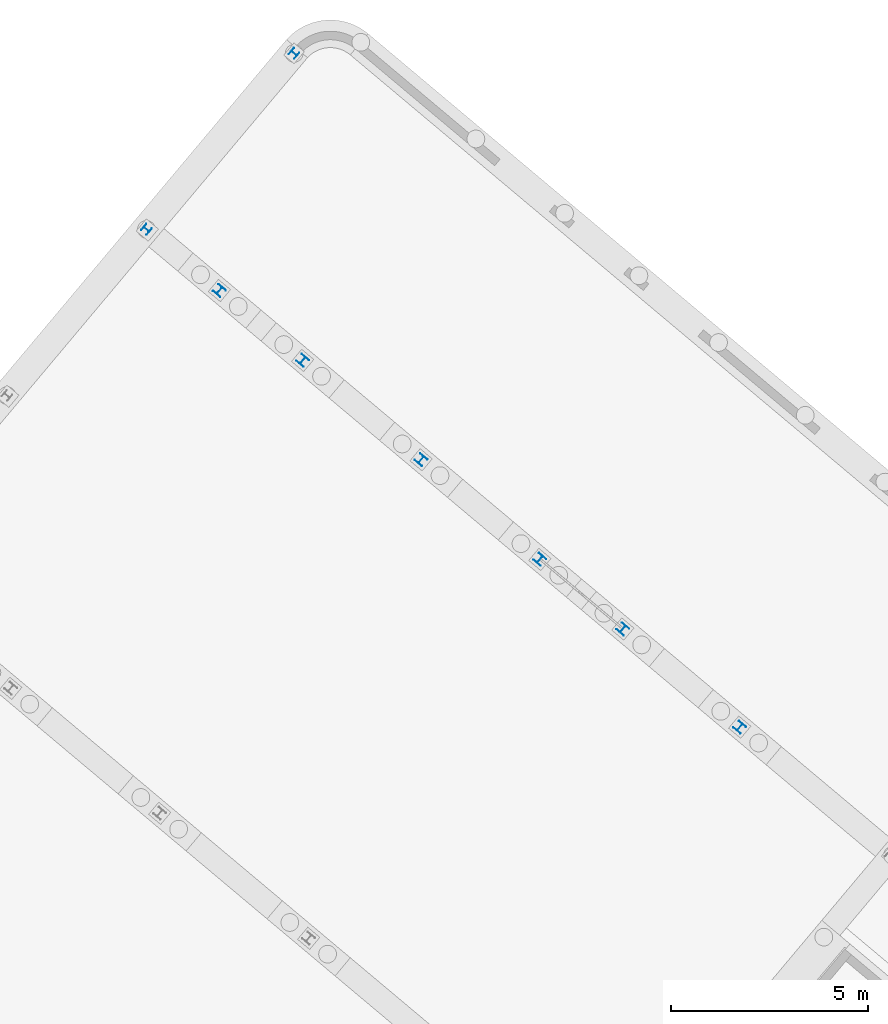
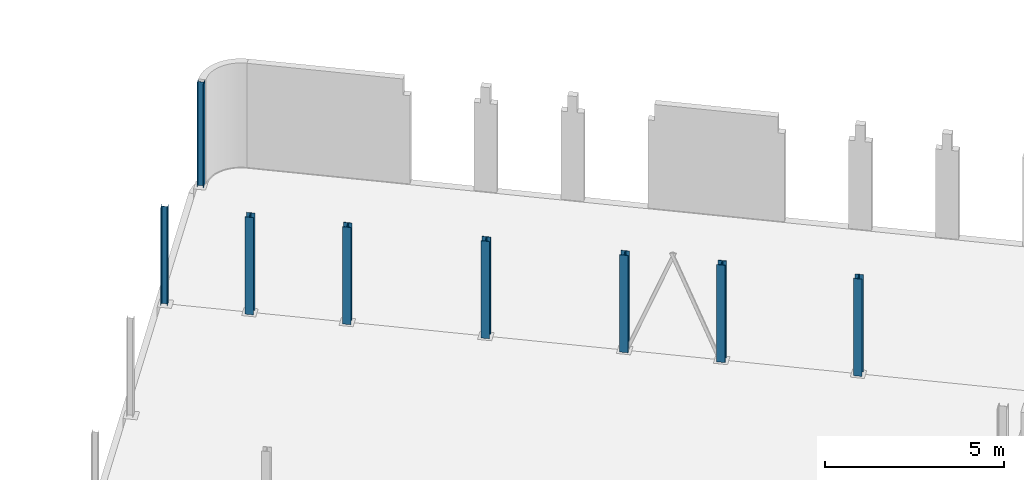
# One storey, part 10 of 26: 8 columns.
"""IFC2X3 building model written with IfcOpenShell, lengths in millimetres."""

from ifc_helpers import new_model, entity, si_unit, converted_unit, derived_unit, direction, frame, frame_2d, origin, origin_2d_with_axis, place, context, subcontext, project, spatial, i_section, extrude, source, transform, mapped, material, type_object, type_shapes, element, save


model = new_model("IFC2X3")

# Units and contexts
model_context = context("Model", 3, precision=0.01, world=origin(), true_north=direction((6.123031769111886e-17, 1.0)))
body_context = subcontext(model_context, "Body", "Model", "MODEL_VIEW")
ifc_project = project(units=[si_unit("LENGTHUNIT", "METRE", prefix="MILLI"), si_unit("AREAUNIT", "SQUARE_METRE"), si_unit("VOLUMEUNIT", "CUBIC_METRE"), derived_unit("MASSDENSITYUNIT", [(si_unit("MASSUNIT", "GRAM", prefix="KILO"), 1), (si_unit("LENGTHUNIT", "METRE"), -3)]), si_unit("MASSUNIT", "GRAM", prefix="KILO"), converted_unit("PLANEANGLEUNIT", "DEGREE", entity("IfcPlaneAngleMeasure", 0.017453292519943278), si_unit("PLANEANGLEUNIT", "RADIAN"), dimensions=[0, 0, 0, 0, 0, 0, 0])], contexts=[model_context])

# Site, building, storey
site_placement = place(None, origin())
site = spatial("IfcSite", under=ifc_project, at=site_placement, Name="Default", CompositionType="ELEMENT")
building_placement = place(site_placement, origin())
building = spatial("IfcBuilding", under=site, at=building_placement, Name="AT constructie", CompositionType="ELEMENT")
storey_placement = place(building_placement, origin())
storey = spatial("IfcBuildingStorey", under=building, at=storey_placement, Name="00 begane grond", CompositionType="ELEMENT", Elevation=-1.0828671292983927e-12)

# Columns
ifc_material = material(Name="h2_staal_S355")
column_type_1 = type_object("IfcColumnType", Name="kolom_gen_HEA240", PredefinedType="COLUMN", material=ifc_material)
shared_shape_1 = source(origin(), body_context, "Body", "SweptSolid", [
    extrude(i_section(OverallWidth=240.0000000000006, OverallDepth=229.99999999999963, WebThickness=7.499999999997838, FlangeThickness=12.000000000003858, FilletRadius=21.0, at=frame_2d((5.5777604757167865e-12, -6.629363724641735e-12), x_axis=(1.0, 0.0))), frame((35590.41380752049, 40581.91976705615, -50.0), z_axis=(0.0, 0.0, 1.0), x_axis=(0.7660444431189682, -0.642787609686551, 0.0)), (0.0, 0.0, 1.0), 3307.9999999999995),
])
type_shapes(column_type_1, [shared_shape_1])
column_1_placement = place(storey_placement, origin())
element("IfcColumn", 1, at=column_1_placement, inside=storey, type_object=column_type_1, material=ifc_material, Name="NLRS_28_SC_TLB_kolom HEA_gen_AT:kolom_gen_HEA240", ObjectType="NLRS_28_SC_TLB_kolom HEA_gen_AT:kolom_gen_HEA240", context=body_context, shape_type="MappedRepresentation", body=[
    mapped(shared_shape_1, transform((0.0, 0.0, 0.0), scale=1.0)),
])
column_type_2 = type_object("IfcColumnType", Name="kolom_gen_HEA240", PredefinedType="COLUMN", material=ifc_material)
shared_shape_2 = source(origin(), body_context, "Body", "SweptSolid", [
    extrude(i_section(OverallWidth=240.0000000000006, OverallDepth=229.99999999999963, WebThickness=7.499999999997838, FlangeThickness=12.000000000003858, FilletRadius=21.0, at=frame_2d((5.5777604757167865e-12, -6.629363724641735e-12), x_axis=(1.0, 0.0))), frame((32626.115294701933, 43069.83042457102, -50.0), z_axis=(0.0, 0.0, 1.0), x_axis=(0.7660444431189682, -0.642787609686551, 0.0)), (0.0, 0.0, 1.0), 3307.9999999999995),
])
type_shapes(column_type_2, [shared_shape_2])
column_2_placement = place(storey_placement, origin())
element("IfcColumn", 2, at=column_2_placement, inside=storey, type_object=column_type_2, material=ifc_material, Name="NLRS_28_SC_TLB_kolom HEA_gen_AT:kolom_gen_HEA240", ObjectType="NLRS_28_SC_TLB_kolom HEA_gen_AT:kolom_gen_HEA240", context=body_context, shape_type="MappedRepresentation", body=[
    mapped(shared_shape_2, transform((0.0, 0.0, 0.0), scale=1.0)),
])
column_type_3 = type_object("IfcColumnType", Name="kolom_gen_HEA240", PredefinedType="COLUMN", material=ifc_material)
shared_shape_3 = source(origin(), body_context, "Body", "SweptSolid", [
    extrude(i_section(OverallWidth=240.0000000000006, OverallDepth=229.99999999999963, WebThickness=7.499999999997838, FlangeThickness=12.000000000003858, FilletRadius=21.0, at=origin_2d_with_axis()), frame((27512.47515482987, 47360.115111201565, -50.0), z_axis=(0.0, 0.0, 1.0), x_axis=(0.7660444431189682, -0.642787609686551, 0.0)), (0.0, 0.0, 1.0), 3307.9999999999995),
])
type_shapes(column_type_3, [shared_shape_3])
column_3_placement = place(storey_placement, origin())
element("IfcColumn", 3, at=column_3_placement, inside=storey, type_object=column_type_3, material=ifc_material, Name="NLRS_28_SC_TLB_kolom HEA_gen_AT:kolom_gen_HEA240", ObjectType="NLRS_28_SC_TLB_kolom HEA_gen_AT:kolom_gen_HEA240", context=body_context, shape_type="MappedRepresentation", body=[
    mapped(shared_shape_3, transform((0.0, 0.0, 0.0), scale=1.0)),
])
column_type_4 = type_object("IfcColumnType", Name="kolom_gen_HEA240", PredefinedType="COLUMN", material=ifc_material)
shared_shape_4 = source(origin(), body_context, "Body", "SweptSolid", [
    extrude(i_section(OverallWidth=240.0000000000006, OverallDepth=229.99999999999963, WebThickness=7.499999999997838, FlangeThickness=12.000000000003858, FilletRadius=21.0, at=frame_2d((-2.2595258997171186e-12, 9.414691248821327e-12), x_axis=(1.0, 0.0))), frame((24509.58093780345, 49879.84254117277, -50.0), z_axis=(0.0, 0.0, 1.0), x_axis=(0.7660444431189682, -0.642787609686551, 0.0)), (0.0, 0.0, 1.0), 3307.9999999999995),
])
type_shapes(column_type_4, [shared_shape_4])
column_4_placement = place(storey_placement, origin())
element("IfcColumn", 4, at=column_4_placement, inside=storey, type_object=column_type_4, material=ifc_material, Name="NLRS_28_SC_TLB_kolom HEA_gen_AT:kolom_gen_HEA240", ObjectType="NLRS_28_SC_TLB_kolom HEA_gen_AT:kolom_gen_HEA240", context=body_context, shape_type="MappedRepresentation", body=[
    mapped(shared_shape_4, transform((0.0, 0.0, 0.0), scale=1.0)),
])
column_type_5 = type_object("IfcColumnType", Name="kolom_gen_HEA240", PredefinedType="COLUMN", material=ifc_material)
shared_shape_5 = source(origin(), body_context, "Body", "SweptSolid", [
    extrude(i_section(OverallWidth=240.0000000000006, OverallDepth=229.99999999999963, WebThickness=7.499999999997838, FlangeThickness=12.000000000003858, FilletRadius=21.0, at=frame_2d((5.5777604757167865e-12, -6.629363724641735e-12), x_axis=(1.0, 0.0))), frame((30523.028610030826, 44833.96081730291, -50.0), z_axis=(0.0, 0.0, 1.0), x_axis=(0.7660444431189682, -0.642787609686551, 0.0)), (0.0, 0.0, 1.0), 3307.9999999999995),
])
type_shapes(column_type_5, [shared_shape_5])
column_5_placement = place(storey_placement, origin())
element("IfcColumn", 5, at=column_5_placement, inside=storey, type_object=column_type_5, material=ifc_material, Name="NLRS_28_SC_TLB_kolom HEA_gen_AT:kolom_gen_HEA240", ObjectType="NLRS_28_SC_TLB_kolom HEA_gen_AT:kolom_gen_HEA240", context=body_context, shape_type="MappedRepresentation", body=[
    mapped(shared_shape_5, transform((0.0, 0.0, 0.0), scale=1.0)),
])
column_type_6 = type_object("IfcColumnType", Name="kolom_gen_HEA200", PredefinedType="COLUMN", material=ifc_material)
shared_shape_6 = source(origin(), body_context, "Body", "SweptSolid", [
    extrude(i_section(OverallWidth=199.99999999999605, OverallDepth=189.9999999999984, WebThickness=6.499999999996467, FlangeThickness=9.999999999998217, FilletRadius=18.0, at=frame_2d((6.629363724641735e-12, 5.5635496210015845e-12), x_axis=(1.0, 0.0))), frame((20549.13116687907, 53203.05448325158, -50.0), z_axis=(0.0, 0.0, 1.0), x_axis=(0.6427876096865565, 0.7660444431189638, 0.0)), (0.0, 0.0, 1.0), 3307.999999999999),
])
type_shapes(column_type_6, [shared_shape_6])
column_6_placement = place(storey_placement, origin())
element("IfcColumn", 6, at=column_6_placement, inside=storey, type_object=column_type_6, material=ifc_material, Name="NLRS_28_SC_TLB_kolom HEA_gen_AT:kolom_gen_HEA200", ObjectType="NLRS_28_SC_TLB_kolom HEA_gen_AT:kolom_gen_HEA200", context=body_context, shape_type="MappedRepresentation", body=[
    mapped(shared_shape_6, transform((0.0, 0.0, 0.0), scale=1.0)),
])
column_type_7 = type_object("IfcColumnType", Name="kolom_gen_HEA200", PredefinedType="COLUMN", material=ifc_material)
shared_shape_7 = source(origin(), body_context, "Body", "SweptSolid", [
    extrude(i_section(OverallWidth=199.99999999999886, OverallDepth=189.9999999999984, WebThickness=6.499999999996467, FlangeThickness=10.000000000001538, FilletRadius=18.0, at=origin_2d_with_axis()), frame((24292.246919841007, 57663.926129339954, -50.0), z_axis=(0.0, 0.0, 1.0), x_axis=(0.6427876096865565, 0.7660444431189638, 0.0)), (0.0, 0.0, 1.0), 3528.9999999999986),
])
type_shapes(column_type_7, [shared_shape_7])
column_7_placement = place(storey_placement, origin())
element("IfcColumn", 7, at=column_7_placement, inside=storey, type_object=column_type_7, material=ifc_material, Name="NLRS_28_SC_TLB_kolom HEA_gen_AT:kolom_gen_HEA200", ObjectType="NLRS_28_SC_TLB_kolom HEA_gen_AT:kolom_gen_HEA200", context=body_context, shape_type="MappedRepresentation", body=[
    mapped(shared_shape_7, transform((0.0, 0.0, 0.0), scale=1.0)),
])
column_type_8 = type_object("IfcColumnType", Name="kolom_gen_HEA240", PredefinedType="COLUMN", material=ifc_material)
shared_shape_8 = source(origin(), body_context, "Body", "SweptSolid", [
    extrude(i_section(OverallWidth=240.0000000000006, OverallDepth=229.99999999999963, WebThickness=7.499999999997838, FlangeThickness=12.000000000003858, FilletRadius=21.0, at=frame_2d((5.5777604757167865e-12, -6.629363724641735e-12), x_axis=(1.0, 0.0))), frame((22399.128497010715, 51650.72240585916, -50.0), z_axis=(0.0, 0.0, 1.0), x_axis=(0.7660444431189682, -0.642787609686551, 0.0)), (0.0, 0.0, 1.0), 3307.9999999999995),
])
type_shapes(column_type_8, [shared_shape_8])
column_8_placement = place(storey_placement, origin())
element("IfcColumn", 8, at=column_8_placement, inside=storey, type_object=column_type_8, material=ifc_material, Name="NLRS_28_SC_TLB_kolom HEA_gen_AT:kolom_gen_HEA240", ObjectType="NLRS_28_SC_TLB_kolom HEA_gen_AT:kolom_gen_HEA240", context=body_context, shape_type="MappedRepresentation", body=[
    mapped(shared_shape_8, transform((0.0, 0.0, 0.0), scale=1.0)),
])

save(model, "model.ifc")
